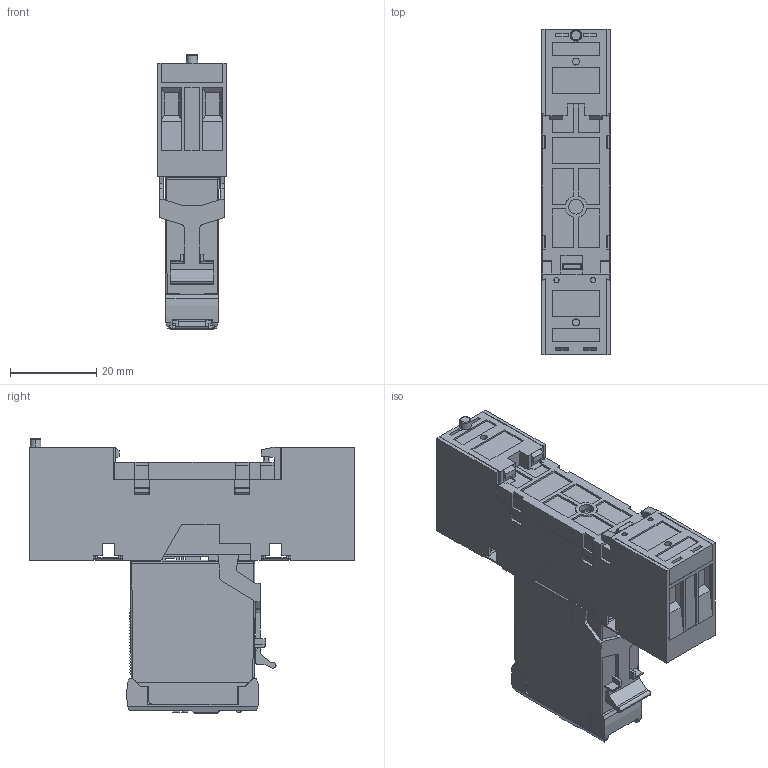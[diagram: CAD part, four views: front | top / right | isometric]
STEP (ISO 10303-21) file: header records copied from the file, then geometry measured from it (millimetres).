
FILE_DESCRIPTION (( 'STEP AP214' ), '1' );
FILE_NAME ('S10 & C10.STEP', '2021-03-11T14:49:23', ( '' ), ( '' ), 'SwSTEP 2.0', 'SolidWorks 2016', '' );
FILE_SCHEMA (( 'AUTOMOTIVE_DESIGN' ));
Length unit declared in the file: millimetre
Products named in the file (1): S10 & C10
Bounding box: 16 x 75.3 x 63.59 mm (x, y, z)
Volume: 38861 mm3; surface area: 15920.7 mm2
Topology: 5 solids, 5 shells, 1842 faces, 5231 edges, 3448 vertices
Faces by surface type: plane 1636, cylinder 128, bspline 68, sphere 8, cone 2
Entity records: 82143 total; most frequent: CARTESIAN_POINT 15643, ORIENTED_EDGE 10430, DIRECTION 8110, EDGE_CURVE 5215, LINE 4220, VECTOR 4220, VERTEX_POINT 3448, EDGE_LOOP 1951
